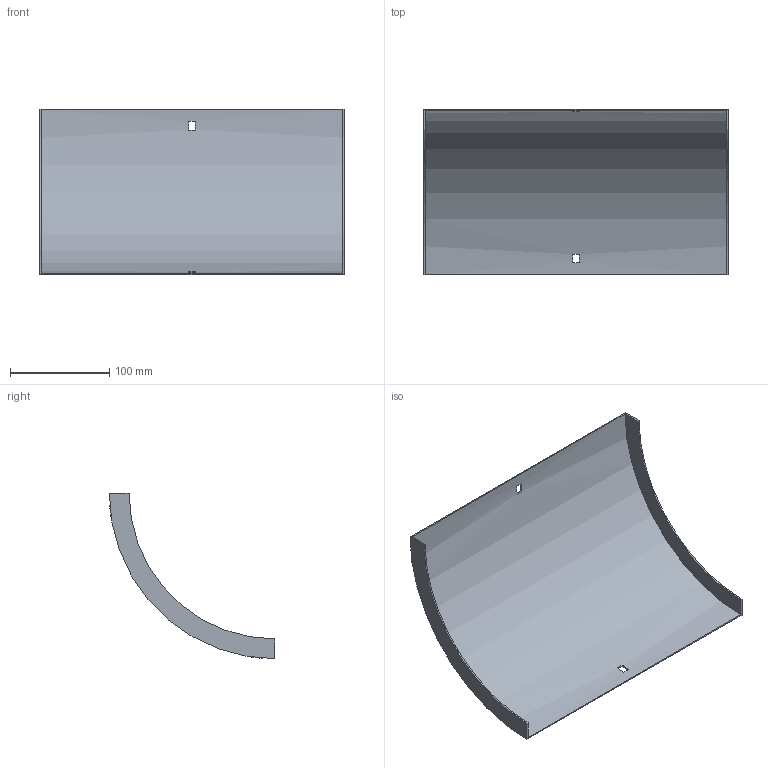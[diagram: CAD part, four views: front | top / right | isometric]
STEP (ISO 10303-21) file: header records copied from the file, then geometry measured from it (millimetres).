
FILE_DESCRIPTION (( 'STEP AP214' ), '1' );
FILE_NAME ('33N1H300.step', '2025-02-21T09:18:39', ( '' ), ( '' ), 'SwSTEP 2.0', 'SolidWorks 2023', '' );
FILE_SCHEMA (( 'AUTOMOTIVE_DESIGN' ));
Length unit declared in the file: millimetre
Products named in the file (1): 33N1H300
Bounding box: 307 x 167 x 167 mm (x, y, z)
Volume: 133702.6 mm3; surface area: 180091.8 mm2
Topology: 1 solids, 1 shells, 18 faces, 48 edges, 32 vertices
Faces by surface type: plane 14, cylinder 4
Entity records: 599 total; most frequent: DIRECTION 102, CARTESIAN_POINT 99, ORIENTED_EDGE 96, EDGE_CURVE 48, AXIS2_PLACEMENT_3D 35, VECTOR 32, LINE 32, VERTEX_POINT 32
